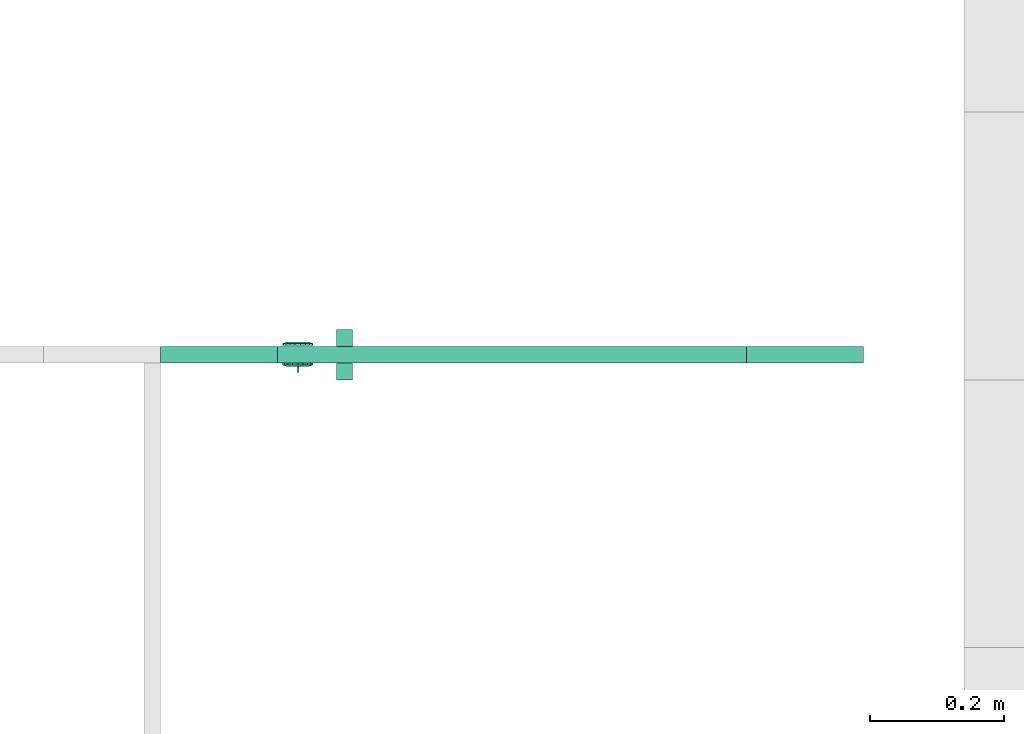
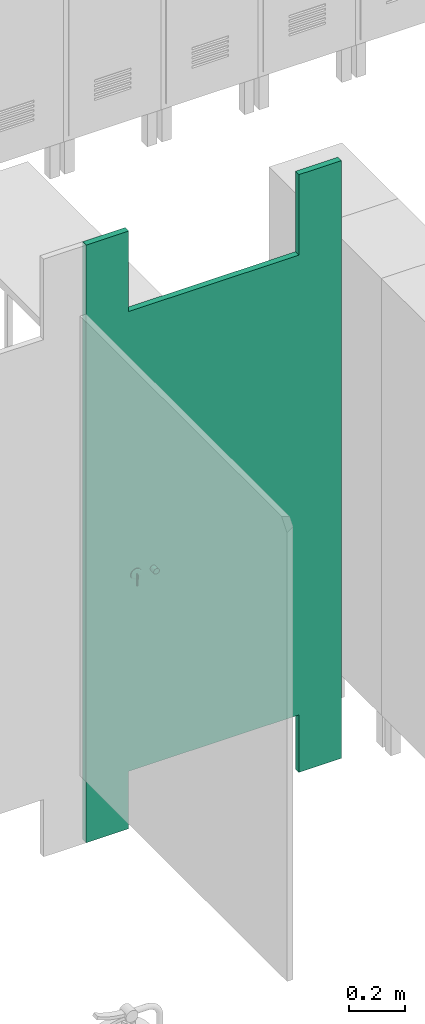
# One storey, part 4 of 9: 1 sanitary terminal.
"""IFC4 building model written with IfcOpenShell, lengths in millimetres."""

from ifc_helpers import new_model, entity, si_unit, converted_unit, derived_unit, direction, frame, origin_with_axes, place, context, subcontext, project, spatial, polygons, type_object, element, save


model = new_model("IFC4")

# Units and contexts
model_context = context("Model", 3, precision=0.01, world=origin_with_axes(), true_north=direction((0.0, 1.0)))
body_context = subcontext(model_context, "Body", "Model", "MODEL_VIEW")
ifc_project = project(units=[si_unit("LENGTHUNIT", "METRE", prefix="MILLI"), si_unit("AREAUNIT", "SQUARE_METRE"), si_unit("VOLUMEUNIT", "CUBIC_METRE"), converted_unit("PLANEANGLEUNIT", "DEGREE", entity("IfcPlaneAngleMeasure", 0.0174532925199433), si_unit("PLANEANGLEUNIT", "RADIAN"), dimensions=[0, 0, 0, 0, 0, 0, 0]), converted_unit("TIMEUNIT", "Year", entity("IfcTimeMeasure", 31557600.0), si_unit("TIMEUNIT", "SECOND"), dimensions=[0, 0, 1, 0, 0, 0, 0]), si_unit("MASSUNIT", "GRAM", prefix="KILO"), si_unit("THERMODYNAMICTEMPERATUREUNIT", "DEGREE_CELSIUS"), si_unit("LUMINOUSINTENSITYUNIT", "LUMEN"), si_unit("ENERGYUNIT", "JOULE", prefix="MEGA"), derived_unit("THERMALCONDUCTANCEUNIT", [(si_unit("POWERUNIT", "WATT"), 1), (si_unit("LENGTHUNIT", "METRE"), -1), (si_unit("THERMODYNAMICTEMPERATUREUNIT", "KELVIN"), -1)]), derived_unit("SPECIFICHEATCAPACITYUNIT", [(si_unit("ENERGYUNIT", "JOULE"), 1), (si_unit("MASSUNIT", "GRAM", prefix="KILO"), -1), (si_unit("THERMODYNAMICTEMPERATUREUNIT", "KELVIN"), -1)]), derived_unit("MASSDENSITYUNIT", [(si_unit("MASSUNIT", "GRAM", prefix="KILO"), 1), (si_unit("VOLUMEUNIT", "CUBIC_METRE"), -1)])], contexts=[model_context])

# Site, building, storey
site_placement = place(None, origin_with_axes())
site = spatial("IfcSite", under=ifc_project, at=site_placement, Name="Exteriér", CompositionType="ELEMENT")
building_placement = place(site_placement, origin_with_axes())
building = spatial("IfcBuilding", under=site, at=building_placement, Name="Univerzitní lezecké centrum", CompositionType="ELEMENT")
storey_placement = place(building_placement, frame((0.0, 0.0, 3200.0), z_axis=(0.0, 0.0, 1.0), x_axis=(1.0, 0.0, 0.0)))
storey = spatial("IfcBuildingStorey", under=building, at=storey_placement, Name="2.NP", CompositionType="ELEMENT", Elevation=3200.0)

# Sanitary terminal
sanitary_terminal_type = type_object("IfcSanitaryTerminalType", Name="Veřejná koupelnová kabinka 27", PredefinedType="NOTDEFINED")
sanitary_terminal_placement = place(storey_placement, frame((-3000.351766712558, 500.387206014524, 0.0), z_axis=(0.0, 0.0, 1.0), x_axis=(-1.0, 0.0, 0.0)))
element("IfcSanitaryTerminal", 1, at=sanitary_terminal_placement, inside=storey, type_object=sanitary_terminal_type, Name="OV23", PredefinedType="NOTDEFINED", context=body_context, shape_type="Tessellation", body=[
    polygons([(0.0, 0.0, 200.0), (175.0000000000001, 0.0, 200.0), (175.0000000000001, 0.0, 2600.0), (0.0, 0.0, 2600.0), (0.0, 25.0, 200.0), (175.0000000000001, 25.0, 200.0), (175.0000000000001, 25.0, 2600.0), (0.0, 25.0, 2600.0)], [[[1, 2, 3, 4]], [[1, 5, 6, 2]], [[2, 6, 7, 3]], [[4, 3, 7, 8]], [[5, 1, 4, 8]], [[6, 5, 8, 7]]], closed=True),
    polygons([(875.0, 0.0, 200.0), (1050.0, 0.0, 200.0), (1050.0, 0.0, 2600.0), (875.0, 0.0, 2600.0), (875.0, 25.0, 200.0), (1050.0, 25.0, 200.0), (1050.0, 25.0, 2600.0), (875.0, 25.0, 2600.0)], [[[1, 2, 3, 4]], [[1, 5, 6, 2]], [[2, 6, 7, 3]], [[4, 3, 7, 8]], [[5, 1, 4, 8]], [[6, 5, 8, 7]]], closed=True),
    polygons([(0.0, 0.0, 0.0), (175.0000000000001, 0.0, 0.0), (175.0000000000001, 0.0, 200.0), (0.0, 0.0, 200.0), (0.0, 25.0, 0.0), (175.0000000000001, 25.0, 0.0), (175.0000000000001, 25.0, 200.0), (0.0, 25.0, 200.0)], [[[1, 2, 3, 4]], [[1, 5, 6, 2]], [[2, 6, 7, 3]], [[4, 3, 7, 8]], [[5, 1, 4, 8]], [[6, 5, 8, 7]]], closed=True),
    polygons([(875.0, 0.0, 0.0), (1050.0, 0.0, 0.0), (1050.0, 0.0, 200.0), (875.0, 0.0, 200.0), (875.0, 25.0, 0.0), (1050.0, 25.0, 0.0), (1050.0, 25.0, 200.0), (875.0, 25.0, 200.0)], [[[1, 2, 3, 4]], [[1, 5, 6, 2]], [[2, 6, 7, 3]], [[4, 3, 7, 8]], [[5, 1, 4, 8]], [[6, 5, 8, 7]]], closed=True),
    polygons([(175.0000000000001, 0.0, 250.0), (875.0, 0.0, 250.0), (875.0, 0.0, 2250.0), (175.0000000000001, 0.0, 2250.0), (175.0000000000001, 25.0, 250.0), (875.0, 25.0, 250.0), (875.0, 25.0, 2250.0), (175.0000000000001, 25.0, 2250.0)], [[[1, 2, 3, 4]], [[1, 5, 6, 2]], [[2, 6, 7, 3]], [[4, 3, 7, 8]], [[5, 1, 4, 8]], [[6, 5, 8, 7]]], closed=True),
    polygons([(843.5, 30.0, 1103.0), (846.5, 30.0, 1103.0), (846.5, 32.0, 1103.0), (843.5, 32.0, 1103.0), (843.5, 30.0, 1097.0), (846.5, 30.0, 1097.0), (846.5, 32.0, 1097.0), (846.5, 32.0, 1053.0), (846.5, 34.0, 1051.0), (846.5, 35.0, 1051.0), (846.5, 38.00000000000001, 1072.0), (846.5, 39.00000000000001, 1090.0), (846.5, 39.00000000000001, 1102.0), (843.5, 39.00000000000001, 1102.0), (843.5, 39.00000000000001, 1090.0), (843.5, 38.00000000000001, 1072.0), (843.5, 35.0, 1051.0), (843.5, 34.0, 1051.0), (843.5, 32.0, 1053.0), (843.5, 32.0, 1097.0)], [[[1, 2, 3, 4]], [[5, 6, 2, 1]], [[2, 6, 7, 8, 9, 10, 11, 12, 13, 3]], [[4, 3, 13, 14]], [[1, 4, 14, 15, 16, 17, 18, 19, 20, 5]], [[20, 7, 6, 5]], [[19, 8, 7, 20]], [[18, 9, 8, 19]], [[17, 10, 9, 18]], [[16, 11, 10, 17]], [[15, 12, 11, 16]], [[14, 13, 12, 15]]], closed=True),
    polygons([(839.1856575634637, 30.0, 1115.97477455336), (837.1335367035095, 28.0, 1121.612930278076), (845.0, 28.0, 1123.0), (845.0, 30.0, 1117.0), (834.0726106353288, 30.0, 1113.022755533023), (830.2158849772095, 28.0, 1117.619022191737), (837.1335367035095, 25.0, 1121.612930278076), (845.0, 25.0, 1123.0), (852.8664632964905, 28.0, 1121.612930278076), (850.8143424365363, 30.0, 1115.97477455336), (855.9273893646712, 30.0, 1113.022755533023), (859.7224318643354, 30.0, 1108.5), (861.7417318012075, 30.0, 1102.952019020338), (861.7417318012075, 30.0, 1097.047980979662), (859.7224318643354, 30.0, 1091.5), (855.9273893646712, 30.0, 1086.977244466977), (850.8143424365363, 30.0, 1084.02522544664), (845.0, 30.0, 1083.0), (839.1856575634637, 30.0, 1084.02522544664), (834.0726106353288, 30.0, 1086.977244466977), (830.2775681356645, 30.0, 1091.5), (828.2582681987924, 30.0, 1097.047980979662), (828.2582681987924, 30.0, 1102.952019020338), (830.2775681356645, 30.0, 1108.5), (825.0814157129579, 28.0, 1111.5), (830.2158849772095, 25.0, 1117.619022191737), (852.8664632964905, 25.0, 1121.612930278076), (859.7841150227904, 28.0, 1117.619022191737), (864.918584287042, 28.0, 1111.5), (867.6505783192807, 28.0, 1103.993908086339), (867.6505783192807, 28.0, 1096.006091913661), (864.918584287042, 28.0, 1088.5), (859.7841150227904, 28.0, 1082.380977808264), (852.8664632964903, 28.0, 1078.387069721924), (845.0, 28.0, 1077.0), (837.1335367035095, 28.0, 1078.387069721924), (830.2158849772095, 28.0, 1082.380977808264), (825.0814157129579, 28.0, 1088.5), (822.3494216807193, 28.0, 1096.006091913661), (822.3494216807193, 28.0, 1103.993908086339), (825.0814157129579, 25.0, 1111.5), (859.7841150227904, 25.0, 1117.619022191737), (864.918584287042, 25.0, 1111.5), (867.6505783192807, 25.0, 1103.993908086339), (867.6505783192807, 25.0, 1096.006091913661), (864.918584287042, 25.0, 1088.5), (859.7841150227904, 25.0, 1082.380977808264), (852.8664632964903, 25.0, 1078.387069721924), (845.0, 25.0, 1077.0), (837.1335367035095, 25.0, 1078.387069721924), (830.2158849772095, 25.0, 1082.380977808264), (825.0814157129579, 25.0, 1088.5), (822.3494216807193, 25.0, 1096.006091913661), (822.3494216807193, 25.0, 1103.993908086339)], [[[1, 2, 3, 4]], [[5, 6, 2, 1]], [[2, 7, 8, 3]], [[4, 3, 9, 10]], [[4, 10, 11, 12, 13, 14, 15, 16, 17, 18, 19, 20, 21, 22, 23, 24, 5, 1]], [[24, 25, 6, 5]], [[6, 26, 7, 2]], [[3, 8, 27, 9]], [[10, 9, 28, 11]], [[11, 28, 29, 12]], [[12, 29, 30, 13]], [[13, 30, 31, 14]], [[14, 31, 32, 15]], [[15, 32, 33, 16]], [[16, 33, 34, 17]], [[17, 34, 35, 18]], [[18, 35, 36, 19]], [[19, 36, 37, 20]], [[20, 37, 38, 21]], [[21, 38, 39, 22]], [[22, 39, 40, 23]], [[23, 40, 25, 24]], [[25, 41, 26, 6]], [[9, 27, 42, 28]], [[28, 42, 43, 29]], [[29, 43, 44, 30]], [[30, 44, 45, 31]], [[31, 45, 46, 32]], [[32, 46, 47, 33]], [[33, 47, 48, 34]], [[34, 48, 49, 35]], [[35, 49, 50, 36]], [[36, 50, 51, 37]], [[37, 51, 52, 38]], [[38, 52, 53, 39]], [[39, 53, 54, 40]], [[40, 54, 41, 25]]], closed=False),
    polygons([(822.0, -1.200000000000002, 1100.0), (822.0, -4.200000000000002, 1100.0), (823.3870697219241, -4.200000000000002, 1107.866463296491), (823.3870697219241, -1.200000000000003, 1107.866463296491), (823.3870697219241, -1.200000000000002, 1092.13353670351), (823.3870697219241, -4.200000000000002, 1092.13353670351), (827.3809778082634, -4.2, 1085.215884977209), (833.5, -4.2, 1080.081415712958), (841.0060919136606, -4.199999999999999, 1077.349421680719), (848.9939080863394, -4.199999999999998, 1077.349421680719), (856.5, -4.199999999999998, 1080.081415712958), (862.6190221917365, -4.199999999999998, 1085.21588497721), (866.6129302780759, -4.199999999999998, 1092.13353670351), (868.0, -4.199999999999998, 1100.0), (866.6129302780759, -4.199999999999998, 1107.866463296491), (862.6190221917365, -4.199999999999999, 1114.784115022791), (856.4999999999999, -4.2, 1119.918584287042), (848.9939080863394, -4.2, 1122.650578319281), (841.0060919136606, -4.200000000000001, 1122.650578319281), (833.5, -4.200000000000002, 1119.918584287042), (827.3809778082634, -4.200000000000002, 1114.784115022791), (827.3809778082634, -1.200000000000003, 1114.784115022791), (833.5, -1.200000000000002, 1119.918584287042), (841.0060919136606, -1.200000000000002, 1122.650578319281), (848.9939080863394, -1.200000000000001, 1122.650578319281), (856.4999999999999, -1.2, 1119.918584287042), (862.6190221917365, -1.199999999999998, 1114.784115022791), (866.6129302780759, -1.199999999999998, 1107.866463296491), (868.0, -1.199999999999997, 1100.0), (866.6129302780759, -1.199999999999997, 1092.13353670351), (862.6190221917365, -1.199999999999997, 1085.21588497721), (856.5, -1.199999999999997, 1080.081415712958), (848.9939080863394, -1.199999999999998, 1077.349421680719), (841.0060919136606, -1.199999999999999, 1077.349421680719), (833.5, -1.2, 1080.081415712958), (827.3809778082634, -1.200000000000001, 1085.215884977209)], [[[1, 2, 3, 4]], [[5, 6, 2, 1]], [[2, 6, 7, 8, 9, 10, 11, 12, 13, 14, 15, 16, 17, 18, 19, 20, 21, 3]], [[4, 3, 21, 22]], [[1, 4, 22, 23, 24, 25, 26, 27, 28, 29, 30, 31, 32, 33, 34, 35, 36, 5]], [[36, 7, 6, 5]], [[35, 8, 7, 36]], [[34, 9, 8, 35]], [[33, 10, 9, 34]], [[32, 11, 10, 33]], [[31, 12, 11, 32]], [[30, 13, 12, 31]], [[29, 14, 13, 30]], [[28, 15, 14, 29]], [[27, 16, 15, 28]], [[26, 17, 16, 27]], [[25, 18, 17, 26]], [[24, 19, 18, 25]], [[23, 20, 19, 24]], [[22, 21, 20, 23]]], closed=True),
    polygons([(853.4999999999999, -6.199999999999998, 1085.277568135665), (858.0227555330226, -6.199999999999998, 1089.072610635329), (860.9747745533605, -6.199999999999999, 1094.185657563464), (862.0, -6.199999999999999, 1100.0), (860.9747745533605, -6.199999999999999, 1105.814342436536), (858.0227555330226, -6.2, 1110.927389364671), (853.4999999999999, -6.2, 1114.722431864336), (847.9520190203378, -6.200000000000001, 1116.741731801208), (842.0479809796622, -6.200000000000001, 1116.741731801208), (836.4999999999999, -6.200000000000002, 1114.722431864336), (831.9772444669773, -6.200000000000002, 1110.927389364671), (829.0252254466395, -6.200000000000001, 1105.814342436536), (828.0, -6.200000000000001, 1100.0), (829.0252254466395, -6.200000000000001, 1094.185657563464), (831.9772444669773, -6.2, 1089.072610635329), (836.5, -6.2, 1085.277568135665), (842.0479809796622, -6.199999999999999, 1083.258268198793), (847.9520190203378, -6.199999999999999, 1083.258268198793), (841.0, -6.200000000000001, 1107.5), (841.0, -6.200000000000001, 1112.5), (849.0, -6.200000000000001, 1112.5), (849.0, -6.2, 1107.5), (856.4999999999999, -4.199999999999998, 1080.081415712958), (862.6190221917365, -4.199999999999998, 1085.21588497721), (866.6129302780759, -4.199999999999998, 1092.13353670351), (868.0, -4.199999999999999, 1100.0), (866.6129302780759, -4.199999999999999, 1107.866463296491), (862.6190221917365, -4.2, 1114.784115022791), (856.4999999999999, -4.2, 1119.918584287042), (848.9939080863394, -4.2, 1122.650578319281), (841.0060919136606, -4.200000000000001, 1122.650578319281), (833.4999999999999, -4.200000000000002, 1119.918584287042), (827.3809778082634, -4.200000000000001, 1114.784115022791), (823.3870697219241, -4.200000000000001, 1107.866463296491), (822.0, -4.2, 1100.0), (823.3870697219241, -4.2, 1092.13353670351), (827.3809778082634, -4.2, 1085.21588497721), (833.5, -4.199999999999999, 1080.081415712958), (841.0060919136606, -4.199999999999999, 1077.349421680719), (848.9939080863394, -4.199999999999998, 1077.349421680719), (841.0, -4.2, 1107.5), (841.0, -4.200000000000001, 1112.5), (849.0, -4.2, 1112.5), (849.0, -4.2, 1107.5)], [[[1, 2, 3, 4, 5, 6, 7, 8, 9, 10, 11, 12, 13, 14, 15, 16, 17, 18], [19, 20, 21, 22]], [[23, 24, 2, 1]], [[24, 25, 3, 2]], [[25, 26, 4, 3]], [[26, 27, 5, 4]], [[27, 28, 6, 5]], [[28, 29, 7, 6]], [[29, 30, 8, 7]], [[30, 31, 9, 8]], [[31, 32, 10, 9]], [[32, 33, 11, 10]], [[33, 34, 12, 11]], [[34, 35, 13, 12]], [[35, 36, 14, 13]], [[36, 37, 15, 14]], [[37, 38, 16, 15]], [[38, 39, 17, 16]], [[39, 40, 18, 17]], [[40, 23, 1, 18]], [[41, 42, 20, 19]], [[42, 43, 21, 20]], [[43, 44, 22, 21]], [[44, 41, 19, 22]], [[29, 28, 27, 26, 25, 24, 23, 40, 39, 38, 37, 36, 35, 34, 33, 32, 31, 30], [41, 44, 43, 42]]], closed=True),
    polygons([(841.0, -4.210000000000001, 1112.5), (849.0, -4.21, 1112.5), (849.0, -4.21, 1107.5), (841.0, -4.210000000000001, 1107.5)], [[[1, 2, 3, 4]]], closed=False),
    polygons([(786.5911099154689, 25.0, 1096.89417145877), (787.0, 25.0, 1100.0), (786.5911099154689, 25.0, 1103.10582854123), (785.3923048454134, 25.0, 1106.0), (783.4852813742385, 25.0, 1108.485281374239), (781.0, 25.0, 1110.392304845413), (778.1058285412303, 25.0, 1111.591109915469), (775.0, 25.0, 1112.0), (771.8941714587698, 25.0, 1111.591109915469), (769.0, 25.0, 1110.392304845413), (766.5147186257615, 25.0, 1108.485281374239), (764.6076951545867, 25.0, 1106.0), (763.4088900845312, 25.0, 1103.10582854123), (763.0, 25.0, 1100.0), (763.4088900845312, 25.0, 1096.89417145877), (764.6076951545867, 25.0, 1094.0), (766.5147186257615, 25.0, 1091.514718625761), (769.0, 25.0, 1089.607695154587), (771.8941714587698, 25.0, 1088.408890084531), (775.0, 25.0, 1088.0), (778.1058285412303, 25.0, 1088.408890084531), (781.0, 25.0, 1089.607695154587), (783.4852813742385, 25.0, 1091.514718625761), (785.3923048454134, 25.0, 1094.0), (786.5911099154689, 50.0, 1096.89417145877), (787.0, 50.0, 1100.0), (786.5911099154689, 50.0, 1103.10582854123), (785.3923048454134, 50.0, 1106.0), (783.4852813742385, 50.0, 1108.485281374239), (781.0, 50.0, 1110.392304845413), (778.1058285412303, 50.0, 1111.591109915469), (775.0, 50.0, 1112.0), (771.8941714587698, 50.0, 1111.591109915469), (769.0, 50.0, 1110.392304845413), (766.5147186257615, 50.0, 1108.485281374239), (764.6076951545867, 50.0, 1106.0), (763.4088900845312, 50.0, 1103.10582854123), (763.0, 50.0, 1100.0), (763.4088900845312, 50.0, 1096.89417145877), (764.6076951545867, 50.0, 1094.0), (766.5147186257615, 50.0, 1091.514718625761), (769.0, 50.0, 1089.607695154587), (771.8941714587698, 50.0, 1088.408890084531), (775.0, 50.0, 1088.0), (778.1058285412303, 50.0, 1088.408890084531), (781.0, 50.0, 1089.607695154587), (783.4852813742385, 50.0, 1091.514718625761), (785.3923048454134, 50.0, 1094.0)], [[[1, 2, 3, 4, 5, 6, 7, 8, 9, 10, 11, 12, 13, 14, 15, 16, 17, 18, 19, 20, 21, 22, 23, 24]], [[1, 25, 26, 2]], [[2, 26, 27, 3]], [[3, 27, 28, 4]], [[4, 28, 29, 5]], [[5, 29, 30, 6]], [[6, 30, 31, 7]], [[7, 31, 32, 8]], [[8, 32, 33, 9]], [[9, 33, 34, 10]], [[10, 34, 35, 11]], [[11, 35, 36, 12]], [[12, 36, 37, 13]], [[13, 37, 38, 14]], [[14, 38, 39, 15]], [[15, 39, 40, 16]], [[16, 40, 41, 17]], [[17, 41, 42, 18]], [[18, 42, 43, 19]], [[19, 43, 44, 20]], [[20, 44, 45, 21]], [[21, 45, 46, 22]], [[22, 46, 47, 23]], [[23, 47, 48, 24]], [[24, 48, 25, 1]], [[25, 48, 47, 46, 45, 44, 43, 42, 41, 40, 39, 38, 37, 36, 35, 34, 33, 32, 31, 30, 29, 28, 27, 26]]], closed=True),
    polygons([(786.5911099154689, 0.0, 1096.89417145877), (785.3923048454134, 0.0, 1094.0), (783.4852813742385, 0.0, 1091.514718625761), (781.0, 0.0, 1089.607695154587), (778.1058285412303, 0.0, 1088.408890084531), (775.0, 0.0, 1088.0), (771.8941714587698, 0.0, 1088.408890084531), (769.0, 0.0, 1089.607695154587), (766.5147186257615, 0.0, 1091.514718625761), (764.6076951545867, 0.0, 1094.0), (763.4088900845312, 0.0, 1096.89417145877), (763.0, 0.0, 1100.0), (763.4088900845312, 0.0, 1103.10582854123), (764.6076951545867, 0.0, 1106.0), (766.5147186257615, 0.0, 1108.485281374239), (769.0, 0.0, 1110.392304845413), (771.8941714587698, 0.0, 1111.591109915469), (775.0, 0.0, 1112.0), (778.1058285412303, 0.0, 1111.591109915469), (781.0, 0.0, 1110.392304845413), (783.4852813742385, 0.0, 1108.485281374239), (785.3923048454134, 0.0, 1106.0), (786.5911099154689, 0.0, 1103.10582854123), (787.0, 0.0, 1100.0), (786.5911099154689, -25.0, 1096.89417145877), (785.3923048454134, -25.0, 1094.0), (783.4852813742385, -25.0, 1091.514718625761), (781.0, -25.0, 1089.607695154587), (778.1058285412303, -25.0, 1088.408890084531), (775.0, -25.0, 1088.0), (771.8941714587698, -25.0, 1088.408890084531), (769.0, -25.0, 1089.607695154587), (766.5147186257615, -25.0, 1091.514718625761), (764.6076951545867, -25.0, 1094.0), (763.4088900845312, -25.0, 1096.89417145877), (763.0, -25.0, 1100.0), (763.4088900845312, -25.0, 1103.10582854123), (764.6076951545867, -25.0, 1106.0), (766.5147186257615, -25.0, 1108.485281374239), (769.0, -25.0, 1110.392304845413), (771.8941714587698, -25.0, 1111.591109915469), (775.0, -25.0, 1112.0), (778.1058285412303, -25.0, 1111.591109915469), (781.0, -25.0, 1110.392304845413), (783.4852813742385, -25.0, 1108.485281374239), (785.3923048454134, -25.0, 1106.0), (786.5911099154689, -25.0, 1103.10582854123), (787.0, -25.0, 1100.0)], [[[1, 2, 3, 4, 5, 6, 7, 8, 9, 10, 11, 12, 13, 14, 15, 16, 17, 18, 19, 20, 21, 22, 23, 24]], [[2, 1, 25, 26]], [[3, 2, 26, 27]], [[4, 3, 27, 28]], [[5, 4, 28, 29]], [[6, 5, 29, 30]], [[7, 6, 30, 31]], [[8, 7, 31, 32]], [[9, 8, 32, 33]], [[10, 9, 33, 34]], [[11, 10, 34, 35]], [[12, 11, 35, 36]], [[13, 12, 36, 37]], [[14, 13, 37, 38]], [[15, 14, 38, 39]], [[16, 15, 39, 40]], [[17, 16, 40, 41]], [[18, 17, 41, 42]], [[19, 18, 42, 43]], [[20, 19, 43, 44]], [[21, 20, 44, 45]], [[22, 21, 45, 46]], [[23, 22, 46, 47]], [[24, 23, 47, 48]], [[1, 24, 48, 25]], [[25, 48, 47, 46, 45, 44, 43, 42, 41, 40, 39, 38, 37, 36, 35, 34, 33, 32, 31, 30, 29, 28, 27, 26]]], closed=True),
])

save(model, "model.ifc")
